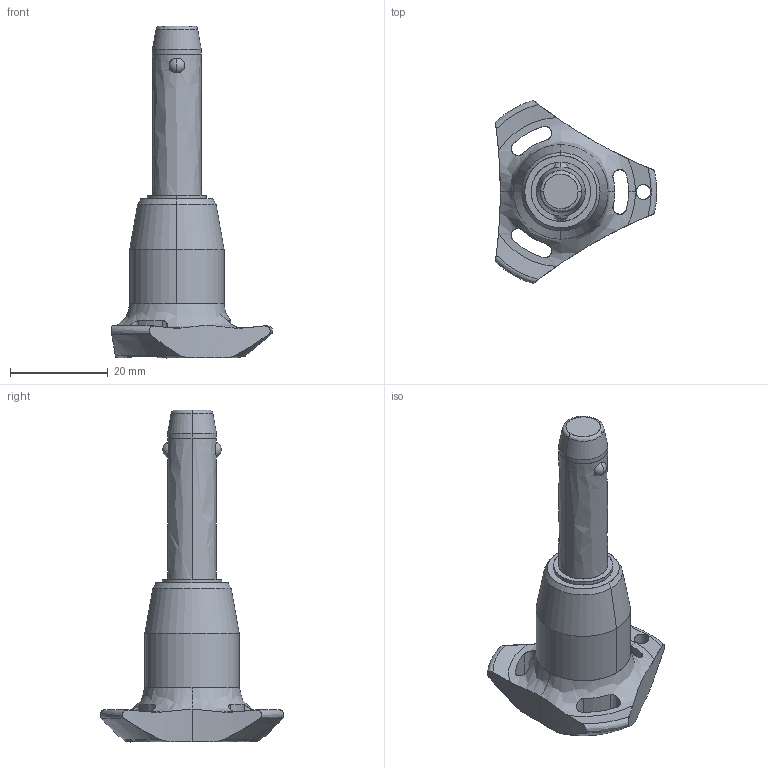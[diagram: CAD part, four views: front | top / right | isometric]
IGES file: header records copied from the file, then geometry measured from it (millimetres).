
Start section: SolidWorks IGES file using analytic representation for surfaces
Global section: file name: C:\Users\ianosborn\Desktop\QR1716_v2\QR1716_v2_20251114_IGES\QR1716.M10-025-T.igs; native system: SolidWorks 2019; preprocessor: SolidWorks 2019; author: IanOsborn; date: 251113.103204; units: millimetre
Bounding box: 33 x 37.51 x 67.9 mm (x, y, z)
Surface area: 4950 mm2 (no closed solid volume)
Topology: 0 solids, 0 shells, 68 faces, 1358 edges, 1354 vertices
Faces by surface type: revolution 52, bspline 16
